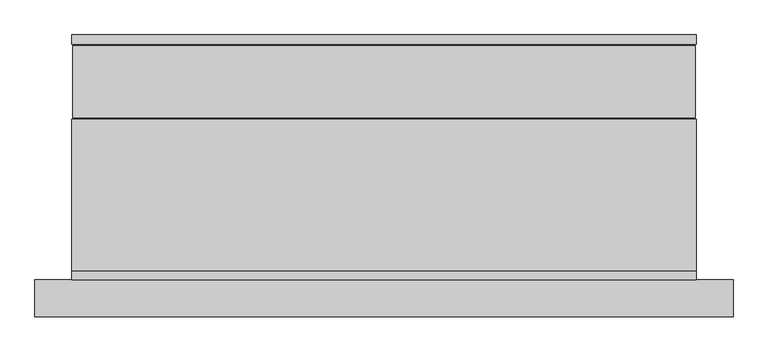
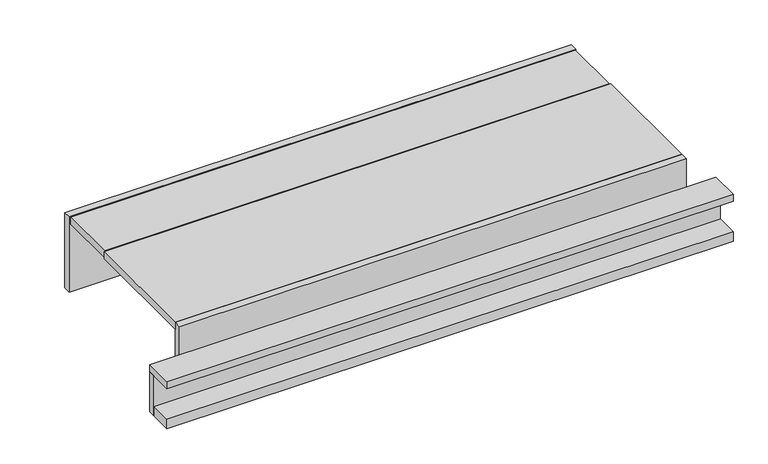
"""IFC4 building model written with IfcOpenShell, lengths in millimetres: proxy geometry, ELEVATE^ADMIN_51x23x8 SIDE WIRE WALL-LIFT COLUMN LEFT."""

from ifc_helpers import new_model, si_unit, frame, origin, place, context, project, spatial, polyline, outline, extrude, source, transform, mapped, element, save


def generic_models_62a96654(model_context):
    return source(origin(), model_context, "Body", "SweptSolid", [
        extrude(outline(polyline([(0.0, 76.2), (1447.8, 76.2), (1447.8, 57.15), (0.0, 57.15), (0.0, 76.2)])), frame((0.0, 0.0, -127.0), z_axis=(0.0, 0.0, 1.0), x_axis=(1.0, 0.0, 0.0)), (0.0, 0.0, 1.0), 107.95),
        extrude(outline(polyline([(1371.6, 565.15), (76.2, 565.15), (76.2, 584.2), (1371.6, 584.2), (1371.6, 565.15)])), frame((0.0, 0.0, -127.0), z_axis=(0.0, 0.0, 1.0), x_axis=(1.0, 0.0, 0.0)), (0.0, 0.0, 1.0), 203.2),
        extrude(outline(polyline([(1369.21875, 561.975), (1369.21875, 411.95625), (78.58125, 411.95625), (78.58125, 561.975), (1369.21875, 561.975)])), frame((0.0, 0.0, 57.15), z_axis=(0.0, 0.0, 1.0), x_axis=(1.0, 0.0, 0.0)), (0.0, 0.0, 1.0), 19.05),
        extrude(outline(polyline([(1371.6, 409.575), (1371.6, 95.25), (76.2, 95.25), (76.2, 409.575), (1371.6, 409.575)])), frame((0.0, 0.0, 57.15), z_axis=(0.0, 0.0, 1.0), x_axis=(1.0, 0.0, 0.0)), (0.0, 0.0, 1.0), 19.05),
        extrude(outline(polyline([(1447.8, 0.0), (0.0, 0.0), (0.0, 76.2), (1447.8, 76.2), (1447.8, 0.0)])), frame((0.0, 0.0, -19.05), z_axis=(0.0, 0.0, 1.0), x_axis=(1.0, 0.0, 0.0)), (0.0, 0.0, 1.0), 19.05),
        extrude(outline(polyline([(1371.6, 76.2), (76.2, 76.2), (76.2, 95.25), (1371.6, 95.25), (1371.6, 76.2)])), frame((0.0, 0.0, -127.0), z_axis=(0.0, 0.0, 1.0), x_axis=(1.0, 0.0, 0.0)), (0.0, 0.0, 1.0), 203.2),
        extrude(outline(polyline([(1447.8, 57.15), (1447.8, 0.0), (0.0, 0.0), (0.0, 57.15), (1447.8, 57.15)])), frame((0.0, 0.0, -127.0), z_axis=(0.0, 0.0, 1.0), x_axis=(1.0, 0.0, 0.0)), (0.0, 0.0, 1.0), 25.4),
    ])


if __name__ == "__main__":
    model = new_model("IFC4")
    model_context = context("Model", 3, world=origin())
    ifc_project = project(units=[si_unit("LENGTHUNIT", "METRE", prefix="MILLI")], contexts=[model_context])
    site = spatial("IfcSite", under=ifc_project)
    building = spatial("IfcBuilding", under=site)
    placement = place(None, origin())
    generic_models_shape = generic_models_62a96654(model_context)
    element("IfcBuildingElementProxy", 1, Name="ELEVATE^ADMIN_51x23x8 SIDE WIRE WALL-LIFT COLUMN LEFT", ObjectType="ELEVATE^ADMIN_51x23x8 SIDE WIRE WALL-LIFT COLUMN LEFT", at=placement, inside=building, context=model_context, shape_type="MappedRepresentation", body=[
        mapped(generic_models_shape, transform((0.0, 0.0, 0.0), x_axis=(1.0, 0.0, 0.0), y_axis=(0.0, 1.0, 0.0), z_axis=(0.0, 0.0, 1.0))),
    ])
    save(model, "model.ifc")
